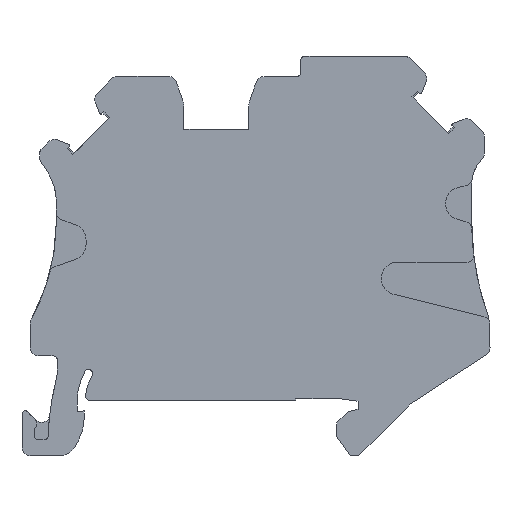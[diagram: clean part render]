
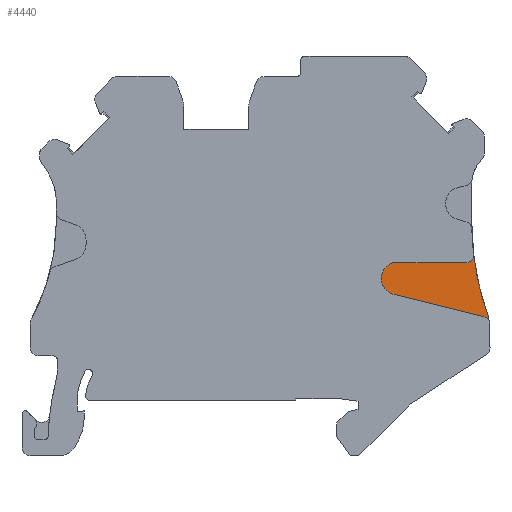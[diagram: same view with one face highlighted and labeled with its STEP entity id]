
A CAD part, front view. The second image highlights one B-rep face of the part: STEP entity #4440.
In plain terms, the highlighted planar face has unit normal (0, -1, 0).
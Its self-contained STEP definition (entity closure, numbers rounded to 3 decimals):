
#3874=CARTESIAN_POINT('',(28.275,5.55,10.131));
#3875=VERTEX_POINT('',#3874);
#3882=CARTESIAN_POINT('',(26.371,5.55,18.089));
#3883=VERTEX_POINT('',#3882);
#3884=CARTESIAN_POINT('',(60.15,5.55,21.962));
#3885=DIRECTION('',(-0.938,0.,-0.348));
#3886=DIRECTION('',(0.,1.,0.));
#3887=AXIS2_PLACEMENT_3D('',#3884,#3886,#3885);
#3888=CIRCLE('',#3887,34.);
#3889=EDGE_CURVE('',#3875,#3883,#3888,.T.);
#4016=CARTESIAN_POINT('',(14.238,5.55,16.975));
#4017=VERTEX_POINT('',#4016);
#4018=CARTESIAN_POINT('',(14.238,5.55,10.838));
#4019=VERTEX_POINT('',#4018);
#4020=CARTESIAN_POINT('',(14.238,5.55,16.975));
#4021=DIRECTION('',(0.,0.,-1.));
#4022=VECTOR('',#4021,6.137);
#4023=LINE('',#4020,#4022);
#4024=EDGE_CURVE('',#4017,#4019,#4023,.T.);
#4164=CARTESIAN_POINT('',(28.4,5.55,8.457));
#4165=VERTEX_POINT('',#4164);
#4189=CARTESIAN_POINT('',(28.4,5.55,9.435));
#4190=VERTEX_POINT('',#4189);
#4197=CARTESIAN_POINT('',(28.4,5.55,8.457));
#4198=DIRECTION('',(0.,0.,1.));
#4199=VECTOR('',#4198,0.978);
#4200=LINE('',#4197,#4199);
#4201=EDGE_CURVE('',#4165,#4190,#4200,.T.);
#4332=CARTESIAN_POINT('',(25.378,5.55,16.975));
#4333=VERTEX_POINT('',#4332);
#4340=CARTESIAN_POINT('',(25.378,5.55,16.975));
#4341=DIRECTION('',(-1.,0.,0.));
#4342=VECTOR('',#4341,11.14);
#4343=LINE('',#4340,#4342);
#4344=EDGE_CURVE('',#4333,#4017,#4343,.T.);
#4386=CARTESIAN_POINT('',(26.4,5.55,9.435));
#4387=DIRECTION('',(0.938,0.,0.348));
#4388=DIRECTION('',(0.,1.,0.));
#4389=AXIS2_PLACEMENT_3D('',#4386,#4388,#4387);
#4390=CIRCLE('',#4389,2.);
#4391=EDGE_CURVE('',#3875,#4190,#4390,.T.);
#4399=CARTESIAN_POINT('',(21.319,5.55,13.7));
#4400=DIRECTION('',(0.,0.,1.));
#4401=DIRECTION('',(0.,1.,0.));
#4402=AXIS2_PLACEMENT_3D('',#4399,#4401,#4400);
#4403=PLANE('',#4402);
#4404=CARTESIAN_POINT('',(15.122,5.55,10.323));
#4405=VERTEX_POINT('',#4404);
#4406=CARTESIAN_POINT('',(28.4,5.55,8.457));
#4407=DIRECTION('',(-0.99,0.,0.139));
#4408=VECTOR('',#4407,13.409);
#4409=LINE('',#4406,#4408);
#4410=EDGE_CURVE('',#4165,#4405,#4409,.T.);
#4411=ORIENTED_EDGE('E1936',*,*,#4410,.T.);
#4412=CARTESIAN_POINT('',(14.485,5.55,10.694));
#4413=VERTEX_POINT('',#4412);
#4414=CARTESIAN_POINT('',(14.485,5.55,10.694));
#4415=DIRECTION('',(0.864,0.,-0.503));
#4416=VECTOR('',#4415,0.737);
#4417=LINE('',#4414,#4416);
#4418=EDGE_CURVE('',#4413,#4405,#4417,.T.);
#4419=ORIENTED_EDGE('E1944',*,*,#4418,.F.);
#4420=CARTESIAN_POINT('',(14.485,5.55,10.694));
#4421=DIRECTION('',(-0.864,0.,0.503));
#4422=VECTOR('',#4421,0.286);
#4423=LINE('',#4420,#4422);
#4424=EDGE_CURVE('',#4413,#4019,#4423,.T.);
#4425=ORIENTED_EDGE('E1943',*,*,#4424,.T.);
#4426=ORIENTED_EDGE('E1943',*,*,#4024,.F.);
#4427=ORIENTED_EDGE('E1943',*,*,#4344,.F.);
#4428=CARTESIAN_POINT('',(25.378,5.55,17.975));
#4429=DIRECTION('',(0.,0.,-1.));
#4430=DIRECTION('',(0.,-1.,0.));
#4431=AXIS2_PLACEMENT_3D('',#4428,#4430,#4429);
#4432=CIRCLE('',#4431,1.);
#4433=EDGE_CURVE('',#4333,#3883,#4432,.T.);
#4434=ORIENTED_EDGE('E2554',*,*,#4433,.T.);
#4435=ORIENTED_EDGE('E2554',*,*,#3889,.F.);
#4436=ORIENTED_EDGE('E2554',*,*,#4391,.T.);
#4437=ORIENTED_EDGE('E2554',*,*,#4201,.F.);
#4438=EDGE_LOOP('',(#4411,#4419,#4425,#4426,#4427,#4434,#4435,#4436,#4437));
#4439=FACE_OUTER_BOUND('',#4438,.F.);
#4440=ADVANCED_FACE('F607',(#4439),#4403,.F.);
